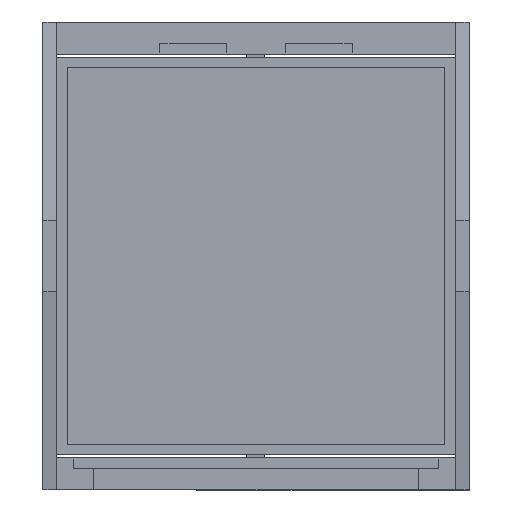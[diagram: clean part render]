
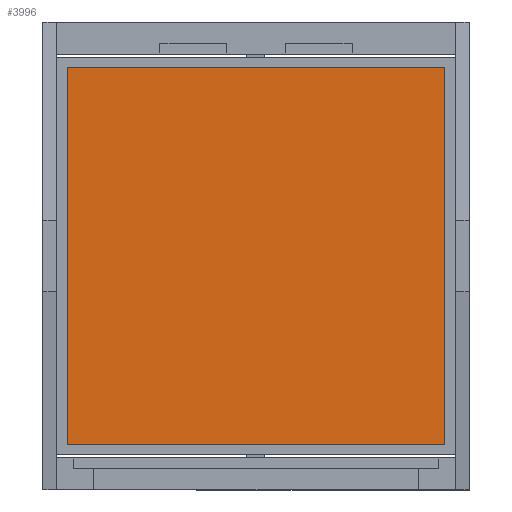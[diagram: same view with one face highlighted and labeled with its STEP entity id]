
A CAD part, front view. The second image highlights one B-rep face of the part: STEP entity #3996.
In plain terms, the highlighted planar face has unit normal (0, -1, 0).
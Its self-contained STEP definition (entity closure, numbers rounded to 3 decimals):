
#156 = DIRECTION ( 'NONE',  ( 0., 0., 1. ) ) ;
#576 = LINE ( 'NONE', #1343, #5519 ) ;
#786 = DIRECTION ( 'NONE',  ( 0., 1., 0. ) ) ;
#1155 = DIRECTION ( 'NONE',  ( 0., 0., 1. ) ) ;
#1206 = LINE ( 'NONE', #3325, #2021 ) ;
#1331 = CARTESIAN_POINT ( 'NONE',  ( 10.763, -5.415, -11.533 ) ) ;
#1343 = CARTESIAN_POINT ( 'NONE',  ( -29.237, -5.415, 28.467 ) ) ;
#1629 = EDGE_CURVE ( 'NONE', #8833, #8041, #1206, .T. ) ;
#1778 = EDGE_CURVE ( 'NONE', #5768, #8833, #5023, .T. ) ;
#1921 = VERTEX_POINT ( 'NONE', #2995 ) ;
#2021 = VECTOR ( 'NONE', #1155, 1000. ) ;
#2032 = CARTESIAN_POINT ( 'NONE',  ( -29.237, -5.415, -11.533 ) ) ;
#2897 = DIRECTION ( 'NONE',  ( -1., 0., 0. ) ) ;
#2995 = CARTESIAN_POINT ( 'NONE',  ( 10.763, -5.415, 28.467 ) ) ;
#3121 = CARTESIAN_POINT ( 'NONE',  ( -29.237, -5.415, -11.533 ) ) ;
#3296 = ORIENTED_EDGE ( 'NONE', *, *, #1778, .F. ) ;
#3325 = CARTESIAN_POINT ( 'NONE',  ( -29.237, -5.415, -11.533 ) ) ;
#3378 = AXIS2_PLACEMENT_3D ( 'NONE', #5225, #786, #156 ) ;
#3800 = ORIENTED_EDGE ( 'NONE', *, *, #6250, .F. ) ;
#3996 = ADVANCED_FACE ( 'NONE', ( #7312 ), #6658, .F. ) ;
#5023 = LINE ( 'NONE', #2032, #7691 ) ;
#5208 = DIRECTION ( 'NONE',  ( 0., 0., -1. ) ) ;
#5225 = CARTESIAN_POINT ( 'NONE',  ( -29.237, -5.415, 28.467 ) ) ;
#5519 = VECTOR ( 'NONE', #5734, 1000. ) ;
#5732 = ORIENTED_EDGE ( 'NONE', *, *, #1629, .F. ) ;
#5734 = DIRECTION ( 'NONE',  ( 1., 0., 0. ) ) ;
#5768 = VERTEX_POINT ( 'NONE', #1331 ) ;
#5908 = EDGE_LOOP ( 'NONE', ( #5732, #3296, #8375, #3800 ) ) ;
#6135 = CARTESIAN_POINT ( 'NONE',  ( -29.237, -5.415, 28.467 ) ) ;
#6250 = EDGE_CURVE ( 'NONE', #8041, #1921, #576, .T. ) ;
#6637 = CARTESIAN_POINT ( 'NONE',  ( 10.763, -5.415, -11.533 ) ) ;
#6658 = PLANE ( 'NONE',  #3378 ) ;
#7256 = LINE ( 'NONE', #6637, #8760 ) ;
#7268 = EDGE_CURVE ( 'NONE', #1921, #5768, #7256, .T. ) ;
#7312 = FACE_OUTER_BOUND ( 'NONE', #5908, .T. ) ;
#7691 = VECTOR ( 'NONE', #2897, 1000. ) ;
#8041 = VERTEX_POINT ( 'NONE', #6135 ) ;
#8375 = ORIENTED_EDGE ( 'NONE', *, *, #7268, .F. ) ;
#8760 = VECTOR ( 'NONE', #5208, 1000. ) ;
#8833 = VERTEX_POINT ( 'NONE', #3121 ) ;
